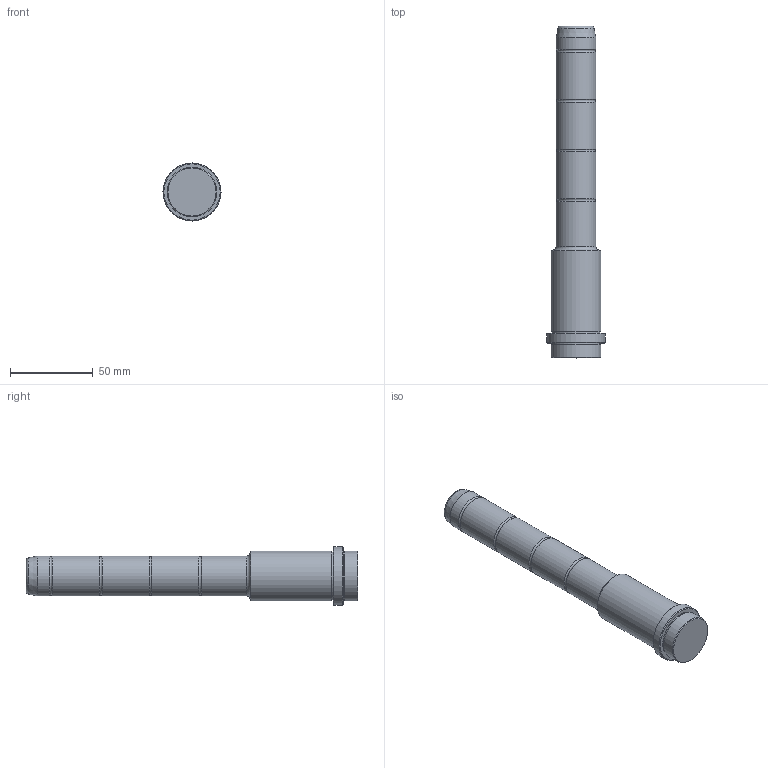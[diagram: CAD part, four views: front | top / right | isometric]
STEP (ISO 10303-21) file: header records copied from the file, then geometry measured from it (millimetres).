
FILE_DESCRIPTION( ( 'STEP AP203' ), '1' );
FILE_NAME( 'D:/Cuma/24 03 2009/D03/D03_24X56X135.step', '2002-12-31T23:23:03', ( ' ' ), ( ' ' ), 'XStep 1.0', ' ', ' ' );
FILE_SCHEMA( ( 'CONFIG_CONTROL_DESIGN' ) );
Length unit declared in the file: metre
Products named in the file (1): 1
Bounding box: 35 x 200 x 35 mm (x, y, z)
Volume: 107986.1 mm3; surface area: 18174.7 mm2
Topology: 1 solids, 1 shells, 28 faces, 52 edges, 31 vertices
Faces by surface type: cylinder 10, plane 7, torus 6, cone 5
Full cylindrical faces by diameter (mm): 24 x5, 29.5 x2, 30 x2, 35 x1
Entity records: 599 total; most frequent: DIRECTION 112, CARTESIAN_POINT 83, AXIS2_PLACEMENT_3D 56, EDGE_LOOP 54, ORIENTED_EDGE 54, FACE_OUTER_BOUND 44, ADVANCED_FACE 28, EDGE_CURVE 27
